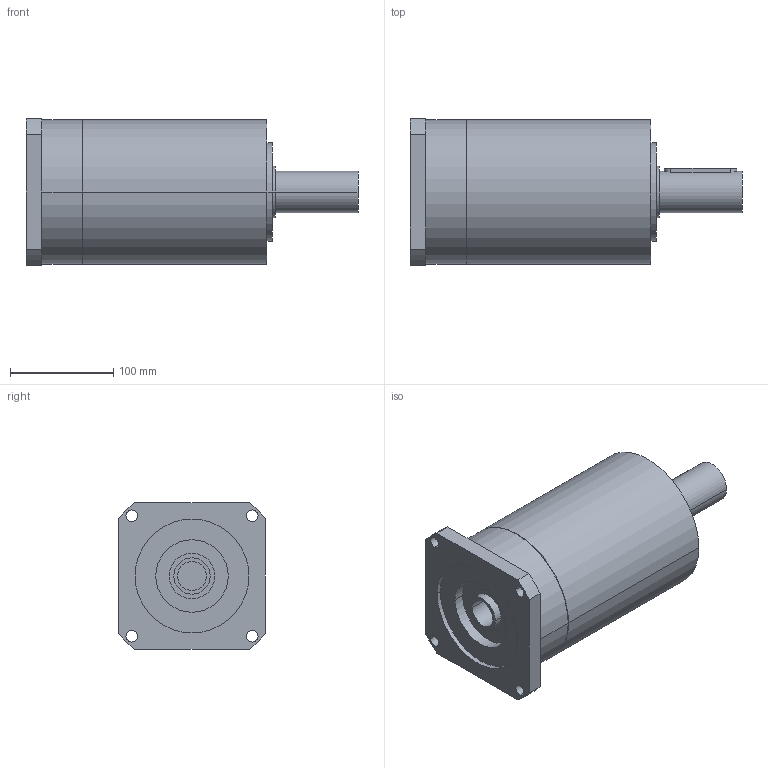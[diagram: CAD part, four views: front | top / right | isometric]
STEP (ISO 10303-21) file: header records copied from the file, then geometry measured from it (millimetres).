
FILE_DESCRIPTION(('CoCreate Modeling STEP Export'),'2;1');
FILE_NAME('GPR150_ig-9-12-16-20-28-35_40_B14_28_P14.stp','2014-08-19T17:03:52',(''),(''),'CoCreate Modeling STEP processor for AP214 (Solid Model)','CoCreate Modeling 16.00C 25-Feb-2009 (C) Parametric Technology GmbH','');
FILE_SCHEMA(('AUTOMOTIVE_DESIGN { 1 0 10303 214 1 1 1 1 }'));
Length unit declared in the file: millimetre
Products named in the file (2): GPR150_ig-9-12-16-20-28-35_40_B14_28_P14
Assembly tree (1 placements, depth 2):
  GPR150_ig-9-12-16-20-28-35_40_B14_28_P14
    GPR150_ig-9-12-16-20-28-35_40_B14_28_P14
Bounding box: 321 x 142 x 142 mm (x, y, z)
Volume: 3653023.2 mm3; surface area: 174105.5 mm2
Topology: 1 solids, 1 shells, 73 faces, 195 edges, 137 vertices
Faces by surface type: cylinder 44, plane 23, cone 6
Entity records: 2033 total; most frequent: CARTESIAN_POINT 395, ORIENTED_EDGE 386, DIRECTION 272, EDGE_CURVE 193, VERTEX_POINT 137, AXIS2_PLACEMENT_3D 102, EDGE_LOOP 96, FACE_OUTER_BOUND 73
